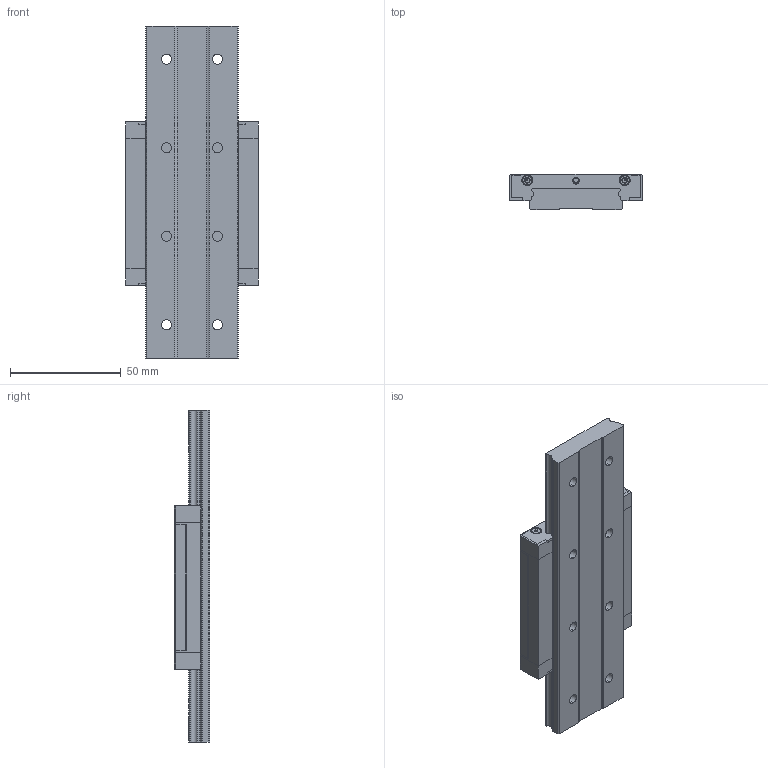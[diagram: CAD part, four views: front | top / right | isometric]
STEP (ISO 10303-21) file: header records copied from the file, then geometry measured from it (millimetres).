
FILE_DESCRIPTION (( 'STEP AP214' ), '1' );
FILE_NAME ('FBXX15WH-SS.STEP', '2022-08-06T22:25:11', ( 'JST' ), ( 'JST' ), 'SwSTEP 2.0', 'SolidWorks 2016', '' );
FILE_SCHEMA (( 'AUTOMOTIVE_DESIGN' ));
Length unit declared in the file: millimetre
Products named in the file (8): 15WS傷裔; FBXX15WH-SS; 15WH-SS賑輸; 15WH賑輸; 15W絳寢; 15WH悜遠釱; 15WS-SS滅鳥え; M2.5蹟佪
Assembly tree (12 placements, depth 3):
  FBXX15WH-SS
    15W絳寢
    15WH-SS賑輸
      15WH賑輸
      15WS-SS滅鳥え  x2
      15WS傷裔  x2
      15WH悜遠釱
      M2.5蹟佪  x4
Bounding box: 60 x 16 x 150 mm (x, y, z)
Volume: 87244.3 mm3; surface area: 39453.3 mm2
Topology: 11 solids, 11 shells, 602 faces, 1626 edges, 1064 vertices
Faces by surface type: cylinder 295, plane 247, cone 40, bspline 12, torus 8
Entity records: 13356 total; most frequent: CARTESIAN_POINT 4950, ORIENTED_EDGE 1714, DIRECTION 1679, EDGE_CURVE 857, AXIS2_PLACEMENT_3D 571, VERTEX_POINT 560, VECTOR 537, LINE 537
